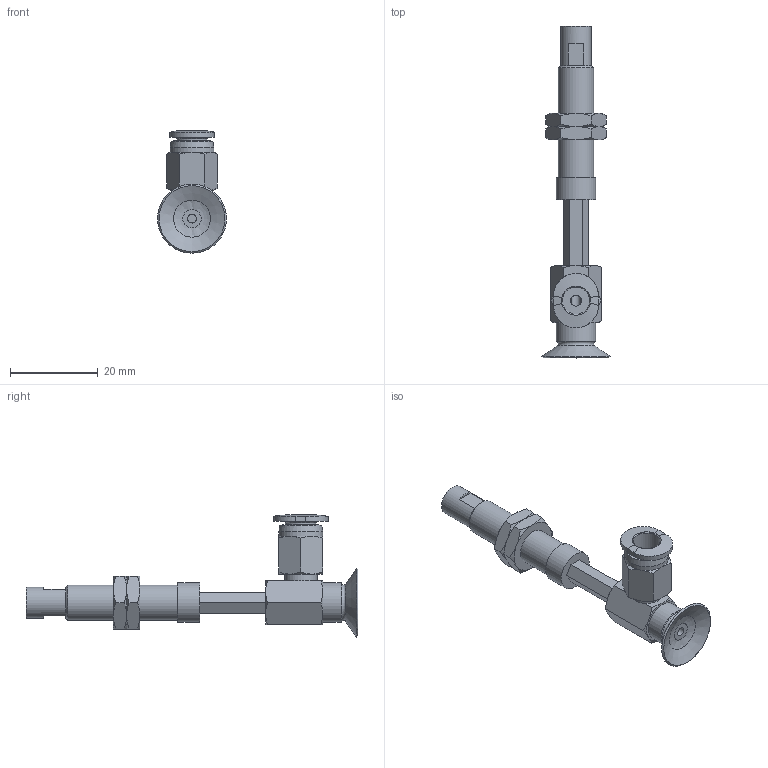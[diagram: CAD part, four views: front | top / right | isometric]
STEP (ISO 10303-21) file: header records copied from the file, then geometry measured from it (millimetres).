
FILE_DESCRIPTION(('STEP AP203'),'1');
FILE_NAME('-O.stp','2025-04-10T07:40:37',(' '),(' '),'Spatial InterOp 3D',' ',' ');
FILE_SCHEMA(('CONFIG_CONTROL_DESIGN'));
Length unit declared in the file: millimetre
Products named in the file (7): BNABPFYH-15A-15-※-O; CONNECTOR-H-15A-15; Nut-15A-15-h; NAPFTH-15A-15-MBODY; NAPFTH-15A-15-FBODY; BPFG-15A-※; PC-C_06-M5
Assembly tree (7 placements, depth 2):
  BNABPFYH-15A-15-※-O
    CONNECTOR-H-15A-15
    Nut-15A-15-h  x2
    NAPFTH-15A-15-MBODY
    NAPFTH-15A-15-FBODY
    BPFG-15A-※
    PC-C_06-M5
Bounding box: 15.7 x 75.5 x 27.83 mm (x, y, z)
Volume: 4049.7 mm3; surface area: 6143 mm2
Topology: 6 solids, 9 shells, 190 faces, 402 edges, 244 vertices
Faces by surface type: plane 80, cone 67, cylinder 24, torus 11, bspline 5, revolution 3
Full cylindrical faces by diameter (mm): 2 x2, 4 x4, 4.134 x2, 5 x2, 6 x2, 7 x2, 7.188 x2, 7.4 x1, 8 x1, 8.2 x1, 9 x2, 10 x1
Entity records: 4979 total; most frequent: CARTESIAN_POINT 1401, DIRECTION 663, ORIENTED_EDGE 586, EDGE_CURVE 295, AXIS2_PLACEMENT_3D 283, EDGE_LOOP 244, VERTEX_POINT 207, FACE_OUTER_BOUND 140
